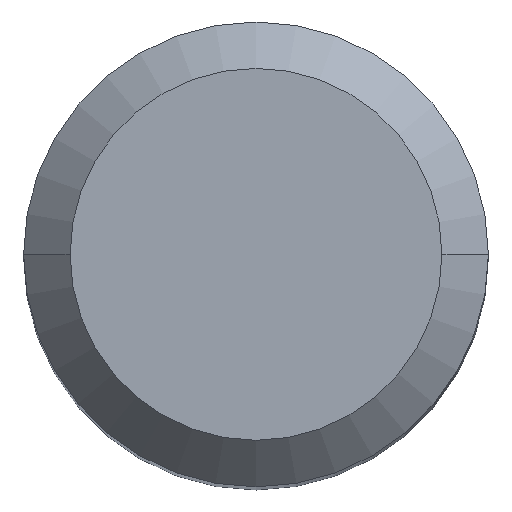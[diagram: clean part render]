
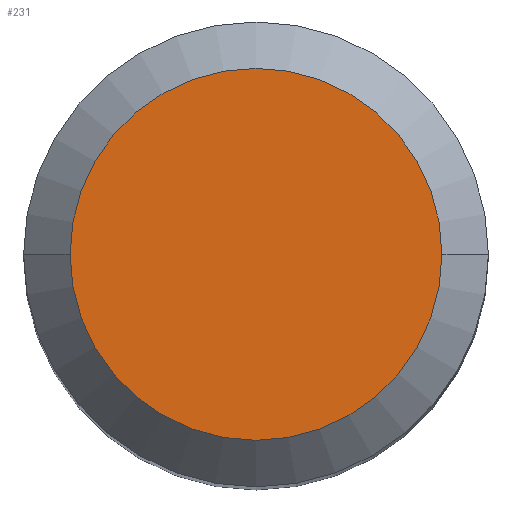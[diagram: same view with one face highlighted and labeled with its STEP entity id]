
A CAD part, top view. The second image highlights one B-rep face of the part: STEP entity #231.
In plain terms, the highlighted planar face has unit normal (0, 0, 1).
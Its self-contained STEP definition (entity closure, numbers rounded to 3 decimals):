
#2 = DIRECTION ( 'NONE',  ( -1., 0., 0. ) ) ;
#25 = AXIS2_PLACEMENT_3D ( 'NONE', #31, #138, #316 ) ;
#31 = CARTESIAN_POINT ( 'NONE',  ( 0., 4., 0. ) ) ;
#72 = FACE_OUTER_BOUND ( 'NONE', #335, .T. ) ;
#76 = DIRECTION ( 'NONE',  ( -1., 0., 0. ) ) ;
#81 = EDGE_CURVE ( 'NONE', #327, #527, #354, .T. ) ;
#138 = DIRECTION ( 'NONE',  ( 0., 0., 1. ) ) ;
#231 = ADVANCED_FACE ( 'NONE', ( #72 ), #412, .T. ) ;
#248 = AXIS2_PLACEMENT_3D ( 'NONE', #263, #438, #2 ) ;
#254 = ORIENTED_EDGE ( 'NONE', *, *, #81, .F. ) ;
#263 = CARTESIAN_POINT ( 'NONE',  ( 0., 0., 0. ) ) ;
#316 = DIRECTION ( 'NONE',  ( 1., 0., 0. ) ) ;
#327 = VERTEX_POINT ( 'NONE', #461 ) ;
#335 = EDGE_LOOP ( 'NONE', ( #431, #254 ) ) ;
#354 = CIRCLE ( 'NONE', #248, 4. ) ;
#356 = CIRCLE ( 'NONE', #421, 4. ) ;
#366 = CARTESIAN_POINT ( 'NONE',  ( -4., 0., 0. ) ) ;
#376 = CARTESIAN_POINT ( 'NONE',  ( 0., 0., 0. ) ) ;
#378 = EDGE_CURVE ( 'NONE', #527, #327, #356, .T. ) ;
#412 = PLANE ( 'NONE',  #25 ) ;
#421 = AXIS2_PLACEMENT_3D ( 'NONE', #376, #542, #76 ) ;
#431 = ORIENTED_EDGE ( 'NONE', *, *, #378, .F. ) ;
#438 = DIRECTION ( 'NONE',  ( 0., 0., -1. ) ) ;
#461 = CARTESIAN_POINT ( 'NONE',  ( 4., 0., 0. ) ) ;
#527 = VERTEX_POINT ( 'NONE', #366 ) ;
#542 = DIRECTION ( 'NONE',  ( 0., 0., -1. ) ) ;
